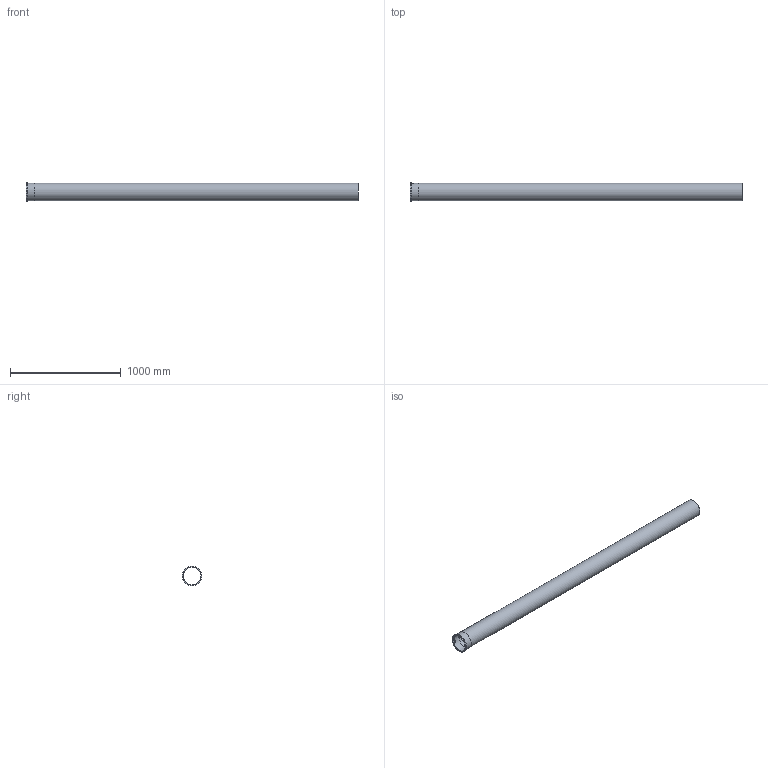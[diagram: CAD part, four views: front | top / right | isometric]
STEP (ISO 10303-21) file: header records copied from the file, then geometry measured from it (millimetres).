
FILE_DESCRIPTION((''),'2;1');
FILE_NAME('I:\WATTS\3D_CAD\3D_CAD_Models\Blucher_Drains\P_StraightPipe\WebsiteFiles\3D\STEP\P6-9.8-316.stp','2009-12-02T16:25:59',('menesek'),(''),'Autodesk Inventor 2010','Autodesk Inventor 2010','');
FILE_SCHEMA(('AUTOMOTIVE_DESIGN { 1 0 10303 214 1 1 1 1 }'));
Length unit declared in the file: inch
Products named in the file (1): P6-9.8-316
Bounding box: 3000 x 177.04 x 177.04 mm (x, y, z)
Volume: 1944296.8 mm3; surface area: 2998666.1 mm2
Topology: 1 solids, 1 shells, 109 faces, 285 edges, 190 vertices
Faces by surface type: plane 59, bspline 34, cylinder 16
Full cylindrical faces by diameter (mm): 157.226 x1, 159.766 x1, 160.782 x2, 177.038 x1
Entity records: 13936 total; most frequent: CARTESIAN_POINT 11558, ORIENTED_EDGE 548, DIRECTION 356, EDGE_CURVE 274, VERTEX_POINT 186, EDGE_LOOP 128, AXIS2_PLACEMENT_3D 120, VECTOR 116
